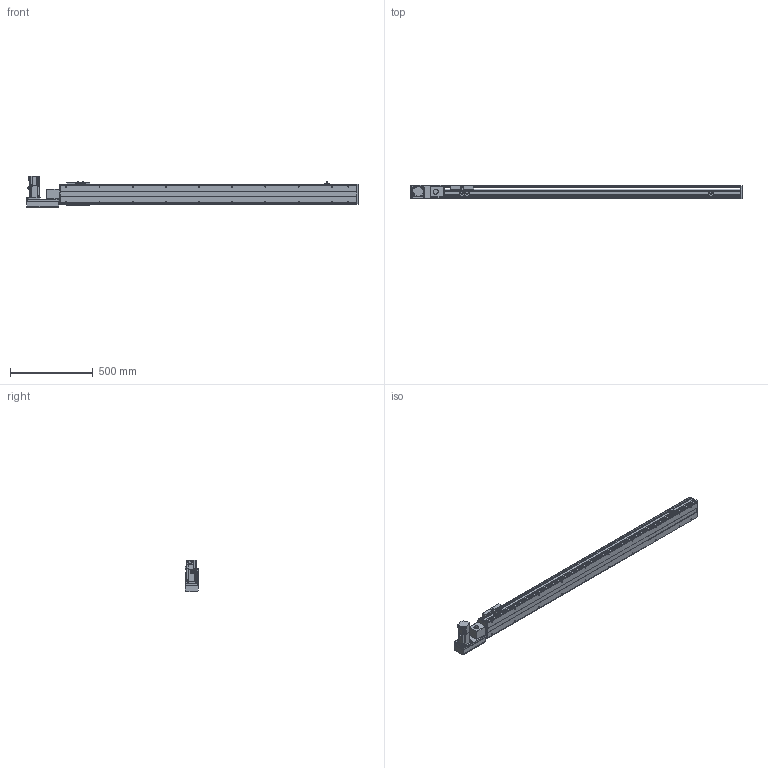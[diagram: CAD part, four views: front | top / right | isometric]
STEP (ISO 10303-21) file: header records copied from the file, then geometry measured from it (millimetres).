
FILE_DESCRIPTION( ( 'STEP AP214' ), '1' );
FILE_NAME( 'x:/temp/worker_26/temp/exporttempdir_3776_66_AQOoO/format_0/PBS120-P40-S1500-L-T40-C1-N(0).stp', '2022-06-05T00:26:26', ( 'License CC BY-ND 4.0' ), ( 'CADENAS' ), ' ', 'PARTsolutions', ' ' );
FILE_SCHEMA( ( 'AUTOMOTIVE_DESIGN { 1 0 10303 214 1 1 1 1 }' ) );
Length unit declared in the file: millimetre
Products named in the file (7): PBS120-P40-S1500-L-T40-C1-N(0); _PBS120-S1500()_body; _PBS120T-L_motors; _T40-p1; _PBS120_sliser; _PBS120_plant; _PBS120_sensor
Assembly tree (8 placements, depth 2):
  PBS120-P40-S1500-L-T40-C1-N(0)
    _PBS120-S1500()_body
    _PBS120T-L_motors
    _T40-p1
    _PBS120_sliser
    _PBS120_plant
    _PBS120_sensor  x3
Bounding box: 2001 x 83 x 189.7 mm (x, y, z)
Volume: 7588666.2 mm3; surface area: 1522902.4 mm2
Topology: 8 solids, 8 shells, 840 faces, 2176 edges, 1399 vertices
Faces by surface type: plane 553, cylinder 233, cone 52, torus 2
Full cylindrical faces by diameter (mm): 2.459 x6, 3.242 x4, 4 x2, 4.134 x4, 4.5 x10, 4.917 x24, 5.5 x11, 6 x2, 6.6 x1, 7 x2, 8.5 x4, 9 x4, 12 x1, 14 x1, 30 x2, 40 x1, 50 x2
Entity records: 27660 total; most frequent: DIRECTION 3788, CARTESIAN_POINT 3713, ORIENTED_EDGE 3526, EDGE_CURVE 1763, AXIS2_PLACEMENT_3D 1280, LINE 1228, VECTOR 1228, VERTEX_POINT 1205
